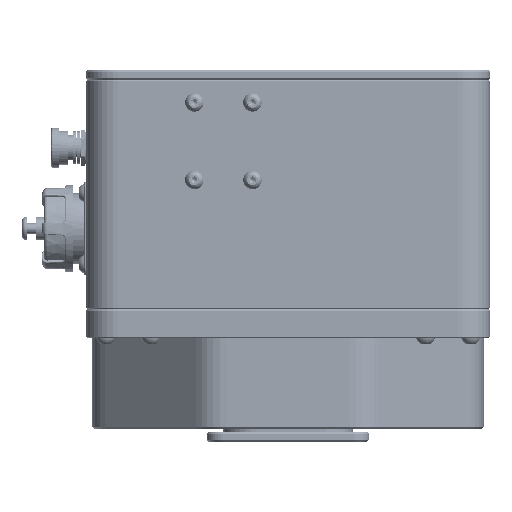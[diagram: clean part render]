
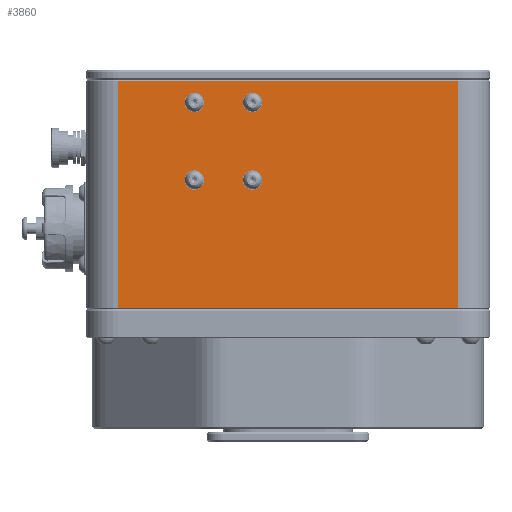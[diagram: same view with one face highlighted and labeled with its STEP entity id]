
A CAD part, left-side view. The second image highlights one B-rep face of the part: STEP entity #3860.
In plain terms, the highlighted planar face has unit normal (-1, 0, 0).
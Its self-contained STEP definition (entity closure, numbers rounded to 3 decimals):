
#540 = VERTEX_POINT ( 'NONE', #24053 ) ;
#3753 = FACE_BOUND ( 'NONE', #64406, .T. ) ;
#3860 = ADVANCED_FACE ( 'NONE', ( #85749, #125874, #3753, #17990, #18888 ), #167747, .F. ) ;
#5764 = VECTOR ( 'NONE', #90062, 1000. ) ;
#11205 = VERTEX_POINT ( 'NONE', #165011 ) ;
#17553 = VECTOR ( 'NONE', #96787, 1000. ) ;
#17990 = FACE_BOUND ( 'NONE', #38344, .T. ) ;
#18888 = FACE_OUTER_BOUND ( 'NONE', #164011, .T. ) ;
#19208 = CARTESIAN_POINT ( 'NONE',  ( -134.795, 32.946, 230. ) ) ;
#21987 = CIRCLE ( 'NONE', #73306, 3. ) ;
#22725 = DIRECTION ( 'NONE',  ( -1., 0., 0. ) ) ;
#23032 = AXIS2_PLACEMENT_3D ( 'NONE', #154398, #32212, #140977 ) ;
#24053 = CARTESIAN_POINT ( 'NONE',  ( -134.795, 32.946, 233. ) ) ;
#27612 = CIRCLE ( 'NONE', #127277, 3. ) ;
#28743 = AXIS2_PLACEMENT_3D ( 'NONE', #139097, #29475, #31231 ) ;
#29475 = DIRECTION ( 'NONE',  ( -1., 0., 0. ) ) ;
#29876 = CARTESIAN_POINT ( 'NONE',  ( -134.795, 32.946, 230. ) ) ;
#29962 = VERTEX_POINT ( 'NONE', #129120 ) ;
#31053 = ORIENTED_EDGE ( 'NONE', *, *, #151323, .F. ) ;
#31231 = DIRECTION ( 'NONE',  ( 0., 0., 1. ) ) ;
#31638 = EDGE_CURVE ( 'NONE', #100912, #144471, #46314, .T. ) ;
#32212 = DIRECTION ( 'NONE',  ( 1., 0., 0. ) ) ;
#33036 = CARTESIAN_POINT ( 'NONE',  ( -134.795, 14.946, 230. ) ) ;
#33938 = ORIENTED_EDGE ( 'NONE', *, *, #162099, .T. ) ;
#35794 = DIRECTION ( 'NONE',  ( 0., 0., 1. ) ) ;
#37415 = ORIENTED_EDGE ( 'NONE', *, *, #145993, .T. ) ;
#38344 = EDGE_LOOP ( 'NONE', ( #51107, #55073 ) ) ;
#39271 = DIRECTION ( 'NONE',  ( 0., 0., 1. ) ) ;
#44248 = ORIENTED_EDGE ( 'NONE', *, *, #31638, .F. ) ;
#46314 = CIRCLE ( 'NONE', #60602, 3. ) ;
#48235 = VERTEX_POINT ( 'NONE', #141735 ) ;
#49629 = CARTESIAN_POINT ( 'NONE',  ( -134.795, 56.446, 260.5 ) ) ;
#49885 = VECTOR ( 'NONE', #95630, 1000. ) ;
#50274 = DIRECTION ( 'NONE',  ( 0., 0., 1. ) ) ;
#50442 = EDGE_CURVE ( 'NONE', #149694, #11205, #111296, .T. ) ;
#51107 = ORIENTED_EDGE ( 'NONE', *, *, #169747, .F. ) ;
#52647 = DIRECTION ( 'NONE',  ( -1., 0., 0. ) ) ;
#55073 = ORIENTED_EDGE ( 'NONE', *, *, #160542, .F. ) ;
#57089 = EDGE_CURVE ( 'NONE', #89010, #29962, #21987, .T. ) ;
#60602 = AXIS2_PLACEMENT_3D ( 'NONE', #33036, #87440, #156934 ) ;
#61632 = CARTESIAN_POINT ( 'NONE',  ( -134.795, 32.946, 251. ) ) ;
#64304 = CARTESIAN_POINT ( 'NONE',  ( -134.795, 14.946, 230. ) ) ;
#64406 = EDGE_LOOP ( 'NONE', ( #44248, #113822 ) ) ;
#70081 = CARTESIAN_POINT ( 'NONE',  ( -134.795, -48.554, 260.5 ) ) ;
#70952 = DIRECTION ( 'NONE',  ( -1., 0., 0. ) ) ;
#73306 = AXIS2_PLACEMENT_3D ( 'NONE', #85367, #171513, #50274 ) ;
#76003 = ORIENTED_EDGE ( 'NONE', *, *, #57089, .F. ) ;
#76192 = DIRECTION ( 'NONE',  ( 0., 0., 1. ) ) ;
#78941 = VERTEX_POINT ( 'NONE', #80792 ) ;
#80792 = CARTESIAN_POINT ( 'NONE',  ( -134.795, 32.946, 227. ) ) ;
#82711 = EDGE_LOOP ( 'NONE', ( #141400, #133038 ) ) ;
#83197 = ORIENTED_EDGE ( 'NONE', *, *, #147150, .T. ) ;
#85367 = CARTESIAN_POINT ( 'NONE',  ( -134.795, 32.946, 254. ) ) ;
#85749 = FACE_BOUND ( 'NONE', #133547, .T. ) ;
#87440 = DIRECTION ( 'NONE',  ( -1., 0., 0. ) ) ;
#88978 = AXIS2_PLACEMENT_3D ( 'NONE', #29876, #70952, #76192 ) ;
#89010 = VERTEX_POINT ( 'NONE', #61632 ) ;
#90062 = DIRECTION ( 'NONE',  ( 0., -1., 0. ) ) ;
#94744 = LINE ( 'NONE', #108093, #49885 ) ;
#95630 = DIRECTION ( 'NONE',  ( 0., 0., -1. ) ) ;
#95872 = VERTEX_POINT ( 'NONE', #96016 ) ;
#96016 = CARTESIAN_POINT ( 'NONE',  ( -134.795, -48.554, 190.5 ) ) ;
#96787 = DIRECTION ( 'NONE',  ( 0., 0., 1. ) ) ;
#97653 = LINE ( 'NONE', #109242, #17553 ) ;
#99211 = EDGE_CURVE ( 'NONE', #131224, #48235, #94744, .T. ) ;
#100488 = EDGE_CURVE ( 'NONE', #11205, #149694, #27612, .T. ) ;
#100912 = VERTEX_POINT ( 'NONE', #175457 ) ;
#101777 = DIRECTION ( 'NONE',  ( 0., 0., 1. ) ) ;
#102270 = EDGE_CURVE ( 'NONE', #144471, #100912, #164516, .T. ) ;
#102692 = CARTESIAN_POINT ( 'NONE',  ( -134.795, 14.946, 254. ) ) ;
#108093 = CARTESIAN_POINT ( 'NONE',  ( -134.795, 56.446, 203. ) ) ;
#109242 = CARTESIAN_POINT ( 'NONE',  ( -134.795, -48.554, 203. ) ) ;
#110397 = AXIS2_PLACEMENT_3D ( 'NONE', #64304, #52647, #39271 ) ;
#111296 = CIRCLE ( 'NONE', #28743, 3. ) ;
#112474 = CARTESIAN_POINT ( 'NONE',  ( -134.795, 56.446, 260.5 ) ) ;
#113822 = ORIENTED_EDGE ( 'NONE', *, *, #102270, .F. ) ;
#115613 = LINE ( 'NONE', #49629, #156665 ) ;
#116024 = CARTESIAN_POINT ( 'NONE',  ( -134.795, 32.946, 254. ) ) ;
#117185 = DIRECTION ( 'NONE',  ( 0., 0., 1. ) ) ;
#118883 = AXIS2_PLACEMENT_3D ( 'NONE', #19208, #22725, #117185 ) ;
#121632 = CIRCLE ( 'NONE', #135865, 3. ) ;
#123189 = CIRCLE ( 'NONE', #88978, 3. ) ;
#125874 = FACE_BOUND ( 'NONE', #82711, .T. ) ;
#127277 = AXIS2_PLACEMENT_3D ( 'NONE', #102692, #172186, #35794 ) ;
#129120 = CARTESIAN_POINT ( 'NONE',  ( -134.795, 32.946, 257. ) ) ;
#131224 = VERTEX_POINT ( 'NONE', #112474 ) ;
#133038 = ORIENTED_EDGE ( 'NONE', *, *, #100488, .F. ) ;
#133547 = EDGE_LOOP ( 'NONE', ( #31053, #76003 ) ) ;
#135865 = AXIS2_PLACEMENT_3D ( 'NONE', #116024, #171292, #101777 ) ;
#137672 = CARTESIAN_POINT ( 'NONE',  ( -134.795, 14.946, 257. ) ) ;
#137776 = VERTEX_POINT ( 'NONE', #70081 ) ;
#139097 = CARTESIAN_POINT ( 'NONE',  ( -134.795, 14.946, 254. ) ) ;
#140977 = DIRECTION ( 'NONE',  ( 0., 1., 0. ) ) ;
#141400 = ORIENTED_EDGE ( 'NONE', *, *, #50442, .F. ) ;
#141735 = CARTESIAN_POINT ( 'NONE',  ( -134.795, 56.446, 190.5 ) ) ;
#144471 = VERTEX_POINT ( 'NONE', #159634 ) ;
#145993 = EDGE_CURVE ( 'NONE', #137776, #131224, #115613, .T. ) ;
#147150 = EDGE_CURVE ( 'NONE', #95872, #137776, #97653, .T. ) ;
#149694 = VERTEX_POINT ( 'NONE', #137672 ) ;
#150805 = ORIENTED_EDGE ( 'NONE', *, *, #99211, .T. ) ;
#151323 = EDGE_CURVE ( 'NONE', #29962, #89010, #121632, .T. ) ;
#154398 = CARTESIAN_POINT ( 'NONE',  ( -134.795, 66.446, 203. ) ) ;
#155211 = LINE ( 'NONE', #157825, #5764 ) ;
#156665 = VECTOR ( 'NONE', #170871, 1000. ) ;
#156934 = DIRECTION ( 'NONE',  ( 0., 0., 1. ) ) ;
#157825 = CARTESIAN_POINT ( 'NONE',  ( -134.795, -48.554, 190.5 ) ) ;
#159634 = CARTESIAN_POINT ( 'NONE',  ( -134.795, 14.946, 227. ) ) ;
#160542 = EDGE_CURVE ( 'NONE', #78941, #540, #173098, .T. ) ;
#162099 = EDGE_CURVE ( 'NONE', #48235, #95872, #155211, .T. ) ;
#164011 = EDGE_LOOP ( 'NONE', ( #150805, #33938, #83197, #37415 ) ) ;
#164516 = CIRCLE ( 'NONE', #110397, 3. ) ;
#165011 = CARTESIAN_POINT ( 'NONE',  ( -134.795, 14.946, 251. ) ) ;
#167747 = PLANE ( 'NONE',  #23032 ) ;
#169747 = EDGE_CURVE ( 'NONE', #540, #78941, #123189, .T. ) ;
#170871 = DIRECTION ( 'NONE',  ( 0., 1., 0. ) ) ;
#171292 = DIRECTION ( 'NONE',  ( -1., 0., 0. ) ) ;
#171513 = DIRECTION ( 'NONE',  ( -1., 0., 0. ) ) ;
#172186 = DIRECTION ( 'NONE',  ( -1., 0., 0. ) ) ;
#173098 = CIRCLE ( 'NONE', #118883, 3. ) ;
#175457 = CARTESIAN_POINT ( 'NONE',  ( -134.795, 14.946, 233. ) ) ;
